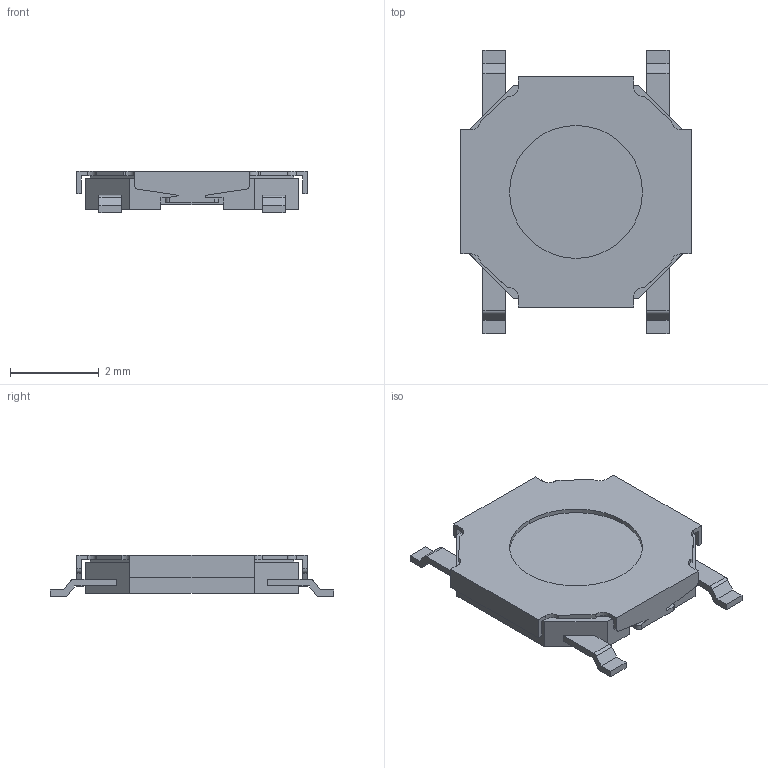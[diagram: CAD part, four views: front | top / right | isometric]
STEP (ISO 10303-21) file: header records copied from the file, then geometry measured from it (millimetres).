
FILE_DESCRIPTION((''),'2;1');
FILE_NAME('CU97M04525FP','2014-04-01T',('eric.riffaud'),(''),'PRO/ENGINEER BY PARAMETRIC TECHNOLOGY CORPORATION, 2013320','PRO/ENGINEER BY PARAMETRIC TECHNOLOGY CORPORATION, 2013320','');
FILE_SCHEMA(('CONFIG_CONTROL_DESIGN'));
Length unit declared in the file: millimetre
Products named in the file (1): CU97M04525FP
Bounding box: 5.2 x 6.4 x 0.93 mm (x, y, z)
Volume: 14.2 mm3; surface area: 115.2 mm2
Topology: 1 solids, 2 shells, 157 faces, 487 edges, 337 vertices
Faces by surface type: plane 119, cylinder 38
Entity records: 5520 total; most frequent: CARTESIAN_POINT 986, ORIENTED_EDGE 974, DIRECTION 917, EDGE_CURVE 487, VECTOR 367, LINE 367, VERTEX_POINT 337, AXIS2_PLACEMENT_3D 275
